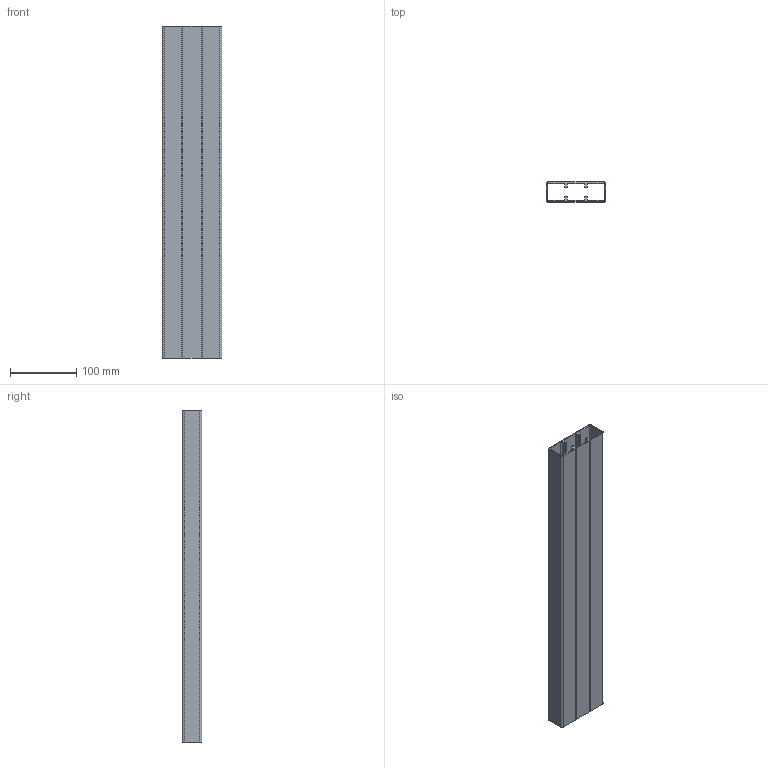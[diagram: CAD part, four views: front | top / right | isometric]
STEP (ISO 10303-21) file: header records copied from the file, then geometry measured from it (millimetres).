
FILE_DESCRIPTION (( 'STEP AP214' ), '1' );
FILE_NAME ('A40724.step', '2024-12-03T16:12:23', ( '' ), ( '' ), 'SwSTEP 2.0', 'SolidWorks 2023', '' );
FILE_SCHEMA (( 'AUTOMOTIVE_DESIGN' ));
Length unit declared in the file: millimetre
Products named in the file (1): A40724
Bounding box: 90 x 30 x 500 mm (x, y, z)
Volume: 282791.5 mm3; surface area: 249031.5 mm2
Topology: 1 solids, 1 shells, 62 faces, 180 edges, 120 vertices
Faces by surface type: cylinder 32, plane 30
Entity records: 2095 total; most frequent: DIRECTION 370, CARTESIAN_POINT 363, ORIENTED_EDGE 360, EDGE_CURVE 180, AXIS2_PLACEMENT_3D 127, VERTEX_POINT 120, VECTOR 116, LINE 116
